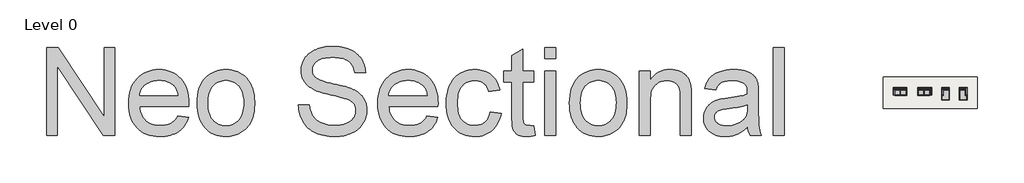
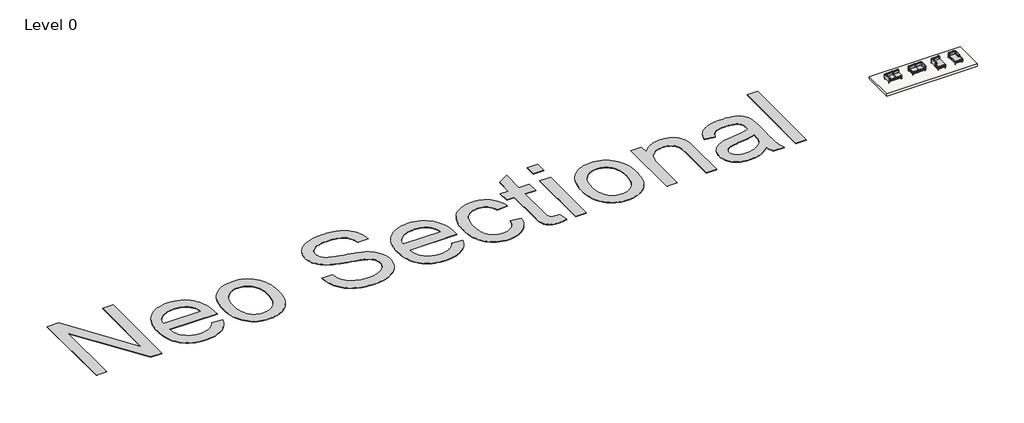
# One storey: 4 furniture elements, 1 proxy, 1 slab.
"""IFC4 building model written with IfcOpenShell, lengths in millimetres."""

from ifc_helpers import new_model, si_unit, frame, origin, origin_with_axes, place, context, project, spatial, polyline, outline, extrude, transform, mapped, element, save
from components import furniture_ecc5c0b1, furniture_0ab977c7, furniture_29ceb941, furniture_131ba593, furniture_083d2603, furniture_9e7daefd, furniture_818bd36a, furniture_f0cc6534

model = new_model("IFC4")

# Units and contexts
model_context = context("Model", 3, world=origin())
ifc_project = project(units=[si_unit("LENGTHUNIT", "METRE", prefix="MILLI")], contexts=[model_context])

# Site, building, storey
site = spatial("IfcSite", under=ifc_project)
building = spatial("IfcBuilding", under=site)
storey = spatial("IfcBuildingStorey", under=building, Name="Level 0", Elevation=0.0)

# Proxy
placement = place(None, origin())
element("IfcBuildingElementProxy", 1, Name="10 mm", ObjectType="10 mm", at=placement, inside=storey, context=model_context, shape_type="SweptSolid", body=[
    extrude(outline(polyline([(-200987.9352285, 70710.4267394), (-200987.9352285, 80756.0577544), (-199643.9396728, 80756.0577544), (-194395.4898749, 72797.5439254), (-194395.4898749, 80756.0577544), (-193139.785998, 80756.0577544), (-193139.785998, 70710.4267394), (-194483.7815538, 70710.4267394), (-199732.2313516, 78671.393115), (-199732.2313516, 70710.4267394), (-200987.9352285, 70710.4267394)])), origin_with_axes(), (0.0, 0.0, 1.0), 50.0),
    extrude(outline(polyline([(-185934.2039858, 72907.9085239), (-184703.0255753, 72750.9455393), (-184789.1521153, 72497.0686416), (-184891.7950241, 72257.8303816), (-185010.9543016, 72033.2307594), (-185146.6299478, 71823.2697748), (-185298.8219628, 71627.947428), (-185467.5303465, 71447.2637189), (-185652.755099, 71281.2186476), (-185854.4962202, 71129.8122139), (-186071.7573631, 70994.7305438), (-186303.5421806, 70877.6597631), (-186549.8506727, 70778.5998716), (-186810.6828394, 70697.5508696), (-187086.0386806, 70634.5127569), (-187375.9181965, 70589.4855335), (-187680.321387, 70562.4691995), (-187999.2482521, 70553.4637548), (-188399.434885, 70569.002937), (-188778.3916611, 70615.6204836), (-189136.1185803, 70693.3163945), (-189472.6156428, 70802.0906699), (-189787.8828484, 70941.9433096), (-190081.9201973, 71112.8743137), (-190354.7276893, 71314.8836822), (-190606.3053246, 71547.9714151), (-190832.2078623, 71809.1101501), (-191027.9900616, 72095.272525), (-191193.6519225, 72406.4585398), (-191329.1934451, 72742.6681944), (-191434.6146294, 73103.901489), (-191509.9154752, 73490.1584234), (-191555.0959828, 73901.4389977), (-191570.156152, 74337.7432119), (-191554.9426986, 74788.8968295), (-191509.3023386, 75214.0687812), (-191433.2350719, 75613.259067), (-191326.7408985, 75986.4676869), (-191189.8198184, 76333.6946409), (-191022.4718316, 76654.939929), (-190824.6969382, 76950.2035511), (-190596.4951381, 77219.4855074), (-190344.0361189, 77459.7584355), (-190073.4895682, 77667.9949732), (-189784.8554862, 77844.1951205), (-189478.1338727, 77988.3588773), (-189153.3247278, 78100.4862438), (-188810.4280515, 78180.5772198), (-188449.4438437, 78228.6318054), (-188070.3721045, 78244.6500006), (-187703.6972221, 78228.6701265), (-187354.1518451, 78180.730504), (-187021.7359736, 78100.8311331), (-186706.4496074, 77988.972014), (-186408.2927466, 77845.1531465), (-186127.2653912, 77669.3745307), (-185863.3675413, 77461.6361665), (-185616.5991967, 77221.938054), (-185393.2833293, 76953.2692344), (-185199.7429109, 76658.6187489), (-185035.9779415, 76337.9865975), (-184901.988421, 75991.3727802), (-184797.7743496, 75618.7772969), (-184723.3357271, 75220.2001478), (-184678.6725537, 74795.6413327), (-184663.7848292, 74345.1008518), (-184671.1424691, 74006.6494162), (-190314.4522751, 74006.6494162), (-190287.0718912, 73748.3272777), (-190241.718939, 73505.5634819), (-190178.3934184, 73278.3580289), (-190097.0953296, 73066.7109185), (-189997.8246725, 72870.6221509), (-189880.581447, 72690.091726), (-189745.3656533, 72525.1196437), (-189592.1772912, 72375.7059042), (-189425.0017491, 72242.9234966), (-189247.8244153, 72127.84541), (-189060.6452898, 72030.4716444), (-188863.4643724, 71950.8021998), (-188656.2816634, 71888.8370763), (-188439.0971626, 71844.5762737), (-188211.91087, 71818.0197922), (-187974.7227858, 71809.1676317), (-187797.7562177, 71813.2679831), (-187627.3808686, 71825.5690373), (-187463.5967387, 71846.0707943), (-187306.4038279, 71874.7732541), (-187155.8021361, 71911.6764168), (-187011.7916634, 71956.7802822), (-186874.3724098, 72010.0848505), (-186743.5443752, 72071.5901216), (-186619.3075598, 72142.0625163), (-186501.6619634, 72222.2684554), (-186390.6075861, 72312.207939), (-186286.1444279, 72411.8809671), (-186188.2724888, 72521.2875396), (-186096.9917687, 72640.4276566), (-186012.3022677, 72769.301318), (-185934.2039858, 72907.9085239)]), holes=[polyline([(-190314.4522751, 75262.3532931), (-185919.488706, 75262.3532931), (-185946.6583242, 75445.9110802), (-185984.0213394, 75617.6659867), (-186031.5777514, 75777.6180126), (-186089.3275605, 75925.7671577), (-186157.2707665, 76062.1134222), (-186235.4073694, 76186.6568059), (-186323.7373693, 76299.3973091), (-186422.2607661, 76400.3349315), (-186587.5777377, 76538.2906797), (-186764.69759, 76657.8523281), (-186953.6203229, 76759.0198768), (-187154.3459365, 76841.7933257), (-187366.8744308, 76906.1726748), (-187591.2058058, 76952.1579242), (-187827.3400614, 76979.7490739), (-188075.2771978, 76988.9461238), (-188300.6240803, 76981.6076444), (-188516.8122341, 76959.5922062), (-188723.841659, 76922.8998093), (-188921.712355, 76871.5304536), (-189110.4243222, 76805.4841392), (-189289.9775606, 76724.760866), (-189460.3720701, 76629.360634), (-189621.6078508, 76519.2834433), (-189769.5079092, 76396.9051983), (-189899.8952518, 76264.6018037), (-190012.7698785, 76122.3732594), (-190108.1317895, 75970.2195655), (-190185.9809846, 75808.1407218), (-190246.3174639, 75636.1367286), (-190289.1412274, 75454.2075857), (-190314.4522751, 75262.3532931)])]), origin_with_axes(), (0.0, 0.0, 1.0), 50.0),
    extrude(outline(polyline([(-183722.0069215, 74399.0568777), (-183705.0307003, 74893.2833456), (-183654.1020366, 75354.477076), (-183569.2209304, 75782.638069), (-183450.3873817, 76177.7663244), (-183297.6013906, 76539.8618424), (-183110.862957, 76868.9246228), (-182890.172081, 77164.9546658), (-182635.5287624, 77427.9519713), (-182402.4601901, 77619.365572), (-182156.9756004, 77785.2573592), (-181899.0749933, 77925.6273329), (-181628.758369, 78040.4754933), (-181346.0257272, 78129.8018403), (-181050.8770682, 78193.6063738), (-180743.3123918, 78231.8890939), (-180423.3316981, 78244.6500006), (-180068.6513016, 78229.1108184), (-179730.5639159, 78182.4932719), (-179409.0695411, 78104.7973609), (-179104.1681771, 77996.0230856), (-178815.8598239, 77856.1704458), (-178544.1444815, 77685.2394417), (-178289.0221499, 77483.2300732), (-178050.4928292, 77250.1423403), (-177834.6495648, 76989.655063), (-177647.5854024, 76705.4470612), (-177489.3003419, 76397.518335), (-177359.7943833, 76065.8688842), (-177259.0675266, 75710.498709), (-177187.1197718, 75331.4078092), (-177143.9511189, 74928.596185), (-177129.5615679, 74502.0638364), (-177135.9228608, 74156.5230082), (-177155.0067393, 73829.9127743), (-177186.8132034, 73522.2331348), (-177231.3422533, 73233.4840897), (-177288.5938888, 72963.6656388), (-177358.5681099, 72712.7777823), (-177441.2649168, 72480.8205202), (-177536.6843093, 72267.7938523), (-177644.2706323, 72069.9231563), (-177763.4682309, 71883.4338094), (-177894.2771049, 71708.3258118), (-178036.6972544, 71544.5991635), (-178190.7286793, 71392.2538643), (-178356.3713798, 71251.2899144), (-178533.6253557, 71121.7073137), (-178722.4906071, 71003.5060622), (-178919.4032771, 70898.0273964), (-179120.7995089, 70806.6125527), (-179326.6793026, 70729.2615311), (-179537.0426581, 70665.9743317), (-179751.8895753, 70616.7509543), (-179971.2200544, 70581.591399), (-180195.0340954, 70560.4956659), (-180423.3316981, 70553.4637548), (-180783.6069666, 70568.9454554), (-181126.2162351, 70615.3905573), (-181451.1595037, 70692.7990605), (-181758.4367723, 70801.1709649), (-182048.0480409, 70940.5062706), (-182319.9933095, 71110.8049775), (-182574.2725781, 71312.0670857), (-182810.8858468, 71544.2925951), (-183024.4298487, 71805.6420959), (-183209.501317, 72094.2761779), (-183366.1002517, 72410.1948413), (-183494.2266528, 72753.398086), (-183593.8805204, 73123.8859119), (-183665.0618543, 73521.6583192), (-183707.7706547, 73946.7153078), (-183722.0069215, 74399.0568777)]), holes=[polyline([(-182466.3030446, 74401.5094244), (-182457.2209579, 74086.7595527), (-182429.9746976, 73792.4347961), (-182384.5642638, 73518.5351544), (-182320.9896566, 73265.0606276), (-182239.2508757, 73032.0112157), (-182139.3479214, 72819.3869188), (-182021.2807936, 72627.1877369), (-181885.0494923, 72455.4136699), (-181735.0609371, 72303.9497547), (-181575.722048, 72172.6810282), (-181407.0328248, 72061.6074903), (-181228.9932675, 71970.7291412), (-181041.6033762, 71900.0459808), (-180844.8631509, 71849.5580091), (-180638.7725915, 71819.265226), (-180423.3316981, 71809.1676317), (-180209.0404359, 71819.3227076), (-180003.9462236, 71849.7879353), (-179808.0490612, 71900.5633148), (-179621.3489486, 71971.6488462), (-179443.8458859, 72063.0445294), (-179275.5398731, 72174.7503644), (-179116.4309102, 72306.7663512), (-178966.5189972, 72459.0924898), (-178830.2876959, 72632.2269538), (-178712.220568, 72826.6679167), (-178612.3176137, 73042.4153784), (-178530.5788329, 73279.4693391), (-178467.0042256, 73537.8297986), (-178421.5937918, 73817.496757), (-178394.3475316, 74118.4702143), (-178385.2654448, 74440.7501705), (-178394.4050131, 74745.153361), (-178421.8237181, 75030.510994), (-178467.5215597, 75296.8230696), (-178531.4985379, 75544.0895877), (-178613.7546528, 75772.3105484), (-178714.2899043, 75981.4859516), (-178833.1042924, 76171.6157973), (-178970.1978171, 76342.7000856), (-179120.8569905, 76494.1640008), (-179280.3683243, 76625.4327273), (-179448.7318187, 76736.5062651), (-179625.9474736, 76827.3846142), (-179812.0152889, 76898.0677746), (-180006.9352648, 76948.5557464), (-180210.7074012, 76978.8485294), (-180423.3316981, 76988.9461238), (-180638.7725915, 76978.8868505), (-180844.8631509, 76948.7090305), (-181041.6033762, 76898.412664), (-181228.9932675, 76827.9977509), (-181407.0328248, 76737.4642911), (-181575.722048, 76626.8122848), (-181735.0609371, 76496.0417318), (-181885.0494923, 76345.1526322), (-182021.2807936, 76173.9533808), (-182139.3479214, 75982.2523724), (-182239.2508757, 75770.0496069), (-182320.9896566, 75537.3450845), (-182384.5642638, 75284.138805), (-182429.9746976, 75010.4307685), (-182457.2209579, 74716.2209749), (-182466.3030446, 74401.5094244)])]), origin_with_axes(), (0.0, 0.0, 1.0), 50.0),
    extrude(outline(polyline([(-172106.7460605, 74163.6124008), (-170851.0421836, 74163.6124008), (-170825.9419016, 73976.5865594), (-170793.5606219, 73798.1063102), (-170753.8983442, 73628.1716531), (-170706.9550688, 73466.7825883), (-170652.7307956, 73313.9391156), (-170591.2255245, 73169.6412351), (-170522.4392556, 73033.8889468), (-170446.3719889, 72906.6822506), (-170361.1843144, 72786.6990707), (-170265.0368221, 72672.6173312), (-170157.9295121, 72564.437032), (-170039.8623842, 72462.1581731), (-169910.8354386, 72365.7807546), (-169770.8486753, 72275.3047764), (-169619.9020941, 72190.7302385), (-169457.9956952, 72112.057141), (-169288.0035566, 72041.0674123), (-169112.7997564, 71979.5429807), (-168932.3842946, 71927.4838463), (-168746.7571712, 71884.890009), (-168555.9183862, 71851.7614689), (-168359.8679396, 71828.098226), (-168158.6058314, 71813.9002803), (-167952.1320616, 71809.1676317), (-167769.072448, 71812.750649), (-167591.4544222, 71823.4997011), (-167419.2779842, 71841.4147878), (-167252.5431341, 71866.4959093), (-167091.2498718, 71898.7430654), (-166935.3981974, 71938.1562562), (-166784.9881109, 71984.7354818), (-166640.0196121, 72038.480742), (-166502.3129507, 72098.4914925), (-166373.688376, 72163.8671887), (-166254.1458881, 72234.6078307), (-166143.685487, 72310.7134184), (-166042.3071726, 72392.1839519), (-165950.0109449, 72479.0194312), (-165866.796804, 72571.2198563), (-165792.6647499, 72668.7852271), (-165727.4231773, 72769.6653679), (-165670.8804811, 72871.8101032), (-165623.0366612, 72975.2194327), (-165583.8917177, 73079.8933567), (-165553.4456504, 73185.831875), (-165531.6984596, 73293.0349876), (-165518.6501451, 73401.5026946), (-165514.3007069, 73511.234996), (-165517.5579954, 73621.6570761), (-165527.3298609, 73728.5152994), (-165543.6163034, 73831.8096659), (-165566.4173229, 73931.5401755), (-165595.7329194, 74027.7068283), (-165631.5630929, 74120.3096243), (-165673.9078433, 74209.3485634), (-165722.7671708, 74294.8236457), (-165781.7049321, 74376.9647975), (-165854.2849841, 74456.0019449), (-165940.5073267, 74531.935088), (-166040.37196, 74604.7642267), (-166153.8788839, 74674.4893611), (-166281.0280985, 74741.1104911), (-166421.8196038, 74804.6276169), (-166576.2533996, 74865.0407383), (-166694.9528246, 74906.3316601), (-166845.0371824, 74952.9492067), (-167026.5064728, 75004.893378), (-167239.3606959, 75062.164174), (-167759.2239404, 75192.6856402), (-168404.6269157, 75344.5136053), (-168745.205169, 75425.2751996), (-169058.7670883, 75505.0787678), (-169345.3126737, 75583.92431), (-169604.8419249, 75661.8118262), (-169837.3548422, 75738.7413163), (-170042.8514254, 75814.7127804), (-170221.3316747, 75889.7262185), (-170372.7955899, 75963.7816305), (-170546.1408196, 76061.002112), (-170708.1047001, 76163.8174654), (-170858.6872313, 76272.2276909), (-170997.8884133, 76386.2327883), (-171125.7082461, 76505.8327578), (-171242.1467297, 76631.0275993), (-171347.2038641, 76761.8173128), (-171440.8796492, 76898.2018983), (-171523.3656903, 77039.4915771), (-171594.8535926, 77184.9965704), (-171655.3433561, 77334.7168782), (-171704.8349807, 77488.6525005), (-171743.3284666, 77646.8034374), (-171770.8238136, 77809.1696888), (-171787.3210218, 77975.7512548), (-171792.8200912, 78146.5481353), (-171786.0181064, 78335.0684973), (-171765.612152, 78520.4848549), (-171731.602228, 78702.7972083), (-171683.9883343, 78882.0055573), (-171622.7704711, 79058.1099019), (-171547.9486382, 79231.1102423), (-171459.5228357, 79401.0065783), (-171357.4930636, 79567.79891), (-171242.3958165, 79728.0575041), (-171114.7675889, 79878.3526275), (-170974.6083808, 80018.6842803), (-170821.9181923, 80149.0524623), (-170656.6970233, 80269.4571737), (-170478.9448739, 80379.8984143), (-170288.661744, 80480.3761842), (-170085.8476336, 80570.8904835), (-169873.8173129, 80651.0772621), (-169655.8855518, 80720.5724703), (-169432.0523503, 80779.3761079), (-169202.3177085, 80827.4881751), (-168966.6816264, 80864.9086718), (-168725.144104, 80891.637598), (-168477.7051412, 80907.6749537), (-168224.364738, 80913.020739), (-167947.0736842, 80907.425867), (-167678.0599752, 80890.6412509), (-167417.3236111, 80862.6668909), (-167164.8645919, 80823.5027868), (-166920.6829176, 80773.1489387), (-166684.7785882, 80711.6053466), (-166457.1516037, 80638.8720105), (-166237.8019641, 80554.9489303), (-166028.7990056, 80460.1809955), (-165832.2120644, 80354.9130955), (-165648.0411406, 80239.1452301), (-165476.2862341, 80112.8773995), (-165316.9473449, 79976.1096036), (-165170.0244731, 79828.8418424), (-165035.5176186, 79671.0741159), (-164913.4267814, 79502.8064241), (-164804.2501352, 79326.4146717), (-164708.4858533, 79144.274763), (-164626.1339358, 78956.3866982), (-164557.1943828, 78762.7504772), (-164501.6671941, 78563.3661), (-164459.5523699, 78358.2335666), (-164430.8499101, 78147.3528771), (-164415.5598146, 77930.7240314), (-165671.2636915, 77930.7240314), (-165705.4460602, 78137.5810116), (-165755.2634137, 78331.4088378), (-165820.715752, 78512.20751), (-165901.8030752, 78679.9770283), (-165998.5253831, 78834.7173925), (-166110.8826757, 78976.4286027), (-166238.8749532, 79105.1106589), (-166382.5022155, 79220.7635612), (-166543.029057, 79323.0807411), (-166721.7200719, 79411.7556303), (-166918.5752604, 79486.7882289), (-167133.5946223, 79548.1785369), (-167366.7781578, 79595.9265542), (-167618.1258668, 79630.0322808), (-167887.6377493, 79650.4957168), (-168175.3138053, 79657.3168621), (-168473.2599004, 79650.5723589), (-168750.282707, 79630.3388491), (-169006.3822251, 79596.6163329), (-169241.5584547, 79549.4048102), (-169455.8113958, 79488.704281), (-169649.1410485, 79414.5147453), (-169821.5474127, 79326.8362031), (-169973.0304884, 79225.6686544), (-170105.2380805, 79114.9591665), (-170219.8179935, 78998.6548066), (-170316.7702277, 78876.7555746), (-170396.0947829, 78749.2614707), (-170457.7916592, 78616.1724947), (-170501.8608565, 78477.4886467), (-170528.3023749, 78333.2099268), (-170537.1162144, 78183.3363348), (-170530.8698847, 78053.8495367), (-170512.1308955, 77930.2641789), (-170480.899247, 77812.5802615), (-170437.174939, 77700.7977844), (-170380.9579716, 77594.9167477), (-170312.2483448, 77494.9371513), (-170231.0460586, 77400.8589952), (-170137.351113, 77312.6822795), (-170019.4755903, 77226.6132211), (-169862.0527532, 77140.0843101), (-169665.0826016, 77053.0955467), (-169428.5651356, 76965.6469307), (-169152.500355, 76877.7384623), (-168836.88826, 76789.3701414), (-168481.7288505, 76700.541968), (-168087.0221265, 76611.253942), (-167689.6329296, 76523.0772263), (-167326.4261015, 76437.5829835), (-166997.401642, 76354.7712135), (-166702.5595513, 76274.6419165), (-166441.8998293, 76197.1950923), (-166215.422476, 76122.430741), (-166023.1274915, 76050.3488625), (-165865.0148756, 75980.949457), (-165665.7646221, 75877.0611144), (-165480.0416961, 75766.5049106), (-165307.8460976, 75649.2808457), (-165149.1778267, 75525.3889196), (-165004.0368833, 75394.8291324), (-164872.4232674, 75257.601484), (-164754.336979, 75113.7059744), (-164649.7780182, 74963.1426037), (-164558.0949272, 74806.2945822), (-164478.6362484, 74643.5451203), (-164411.4019817, 74474.8942182), (-164356.3921271, 74300.3418757), (-164313.6066846, 74119.8880928), (-164283.0456543, 73933.5328697), (-164264.7090361, 73741.2762061), (-164258.59683, 73543.1181023), (-164265.6287411, 73345.2857273), (-164286.7244742, 73150.3274303), (-164321.8840295, 72958.2432115), (-164371.1074069, 72769.0330708), (-164434.3946064, 72582.6970081), (-164511.745628, 72399.2350235), (-164603.1604717, 72218.647117), (-164708.6391375, 72040.9332886), (-164827.3194019, 71869.5615925), (-164958.3390417, 71708.000083), (-165101.6980567, 71556.24876), (-165257.3964469, 71414.3076235), (-165425.4342124, 71282.1766736), (-165605.8113532, 71159.8559102), (-165798.5278692, 71047.3453333), (-166003.5837605, 70944.644943), (-166218.0857884, 70852.961852), (-166439.1407144, 70773.5031732), (-166666.7485384, 70706.2689064), (-166900.9092604, 70651.2590519), (-167141.6228805, 70608.4736094), (-167388.8893986, 70577.9125791), (-167642.7088147, 70559.5759609), (-167903.0811289, 70553.4637548), (-168231.0517597, 70560.0549739), (-168545.4184209, 70579.8286311), (-168846.1811125, 70612.7847265), (-169133.3398345, 70658.9232601), (-169406.8945868, 70718.2442318), (-169666.8453695, 70790.7476417), (-169913.1921827, 70876.4334897), (-170145.9350262, 70975.3017759), (-170365.8019999, 71087.4291424), (-170573.5212035, 71212.8922312), (-170769.0926371, 71351.6910423), (-170952.5163006, 71503.8255757), (-171123.7921941, 71669.2958314), (-171282.9203175, 71848.1018095), (-171429.9006709, 72040.2435099), (-171564.7332542, 72245.7209326), (-171685.8660654, 72461.3151102), (-171791.7471021, 72683.8070752), (-171882.3763645, 72913.1968276), (-171957.7538524, 73149.4843674), (-172017.879566, 73392.6696947), (-172062.7535052, 73642.7528093), (-172092.37567, 73899.7337113), (-172106.7460605, 74163.6124008)])), origin_with_axes(), (0.0, 0.0, 1.0), 50.0),
    extrude(outline(polyline([(-157366.9407871, 72907.9085239), (-156135.7623765, 72750.9455393), (-156221.8889165, 72497.0686416), (-156324.5318253, 72257.8303816), (-156443.6911028, 72033.2307594), (-156579.366749, 71823.2697748), (-156731.558764, 71627.947428), (-156900.2671478, 71447.2637189), (-157085.4919002, 71281.2186476), (-157287.2330214, 71129.8122139), (-157504.4941643, 70994.7305438), (-157736.2789818, 70877.6597631), (-157982.5874739, 70778.5998716), (-158243.4196406, 70697.5508696), (-158518.7754818, 70634.5127569), (-158808.6549977, 70589.4855335), (-159113.0581882, 70562.4691995), (-159431.9850533, 70553.4637548), (-159832.1716862, 70569.002937), (-160211.1284623, 70615.6204836), (-160568.8553815, 70693.3163945), (-160905.352444, 70802.0906699), (-161220.6196497, 70941.9433096), (-161514.6569985, 71112.8743137), (-161787.4644906, 71314.8836822), (-162039.0421258, 71547.9714151), (-162264.9446635, 71809.1101501), (-162460.7268628, 72095.272525), (-162626.3887237, 72406.4585398), (-162761.9302463, 72742.6681944), (-162867.3514306, 73103.901489), (-162942.6522764, 73490.1584234), (-162987.832784, 73901.4389977), (-163002.8929532, 74337.7432119), (-162987.6794998, 74788.8968295), (-162942.0391398, 75214.0687812), (-162865.9718731, 75613.259067), (-162759.4776997, 75986.4676869), (-162622.5566196, 76333.6946409), (-162455.2086328, 76654.939929), (-162257.4337394, 76950.2035511), (-162029.2319393, 77219.4855074), (-161776.7729201, 77459.7584355), (-161506.2263694, 77667.9949732), (-161217.5922874, 77844.1951205), (-160910.8706739, 77988.3588773), (-160586.061529, 78100.4862438), (-160243.1648527, 78180.5772198), (-159882.1806449, 78228.6318054), (-159503.1089057, 78244.6500006), (-159136.4340233, 78228.6701265), (-158786.8886464, 78180.730504), (-158454.4727748, 78100.8311331), (-158139.1864086, 77988.972014), (-157841.0295478, 77845.1531465), (-157560.0021924, 77669.3745307), (-157296.1043425, 77461.6361665), (-157049.3359979, 77221.938054), (-156826.0201305, 76953.2692344), (-156632.4797121, 76658.6187489), (-156468.7147427, 76337.9865975), (-156334.7252222, 75991.3727802), (-156230.5111508, 75618.7772969), (-156156.0725283, 75220.2001478), (-156111.4093549, 74795.6413327), (-156096.5216304, 74345.1008518), (-156103.8792703, 74006.6494162), (-161747.1890763, 74006.6494162), (-161719.8086924, 73748.3272777), (-161674.4557402, 73505.5634819), (-161611.1302196, 73278.3580289), (-161529.8321308, 73066.7109185), (-161430.5614737, 72870.6221509), (-161313.3182482, 72690.091726), (-161178.1024545, 72525.1196437), (-161024.9140924, 72375.7059042), (-160857.7385503, 72242.9234966), (-160680.5612165, 72127.84541), (-160493.382091, 72030.4716444), (-160296.2011736, 71950.8021998), (-160089.0184646, 71888.8370763), (-159871.8339638, 71844.5762737), (-159644.6476713, 71818.0197922), (-159407.459587, 71809.1676317), (-159230.4930189, 71813.2679831), (-159060.1176699, 71825.5690373), (-158896.3335399, 71846.0707943), (-158739.1406291, 71874.7732541), (-158588.5389373, 71911.6764168), (-158444.5284646, 71956.7802822), (-158307.109211, 72010.0848505), (-158176.2811764, 72071.5901216), (-158052.044361, 72142.0625163), (-157934.3987646, 72222.2684554), (-157823.3443873, 72312.207939), (-157718.8812291, 72411.8809671), (-157621.00929, 72521.2875396), (-157529.7285699, 72640.4276566), (-157445.0390689, 72769.301318), (-157366.9407871, 72907.9085239)]), holes=[polyline([(-161747.1890763, 75262.3532931), (-157352.2255072, 75262.3532931), (-157379.3951254, 75445.9110802), (-157416.7581406, 75617.6659867), (-157464.3145526, 75777.6180126), (-157522.0643617, 75925.7671577), (-157590.0075677, 76062.1134222), (-157668.1441706, 76186.6568059), (-157756.4741705, 76299.3973091), (-157854.9975673, 76400.3349315), (-158020.3145389, 76538.2906797), (-158197.4343912, 76657.8523281), (-158386.3571241, 76759.0198768), (-158587.0827377, 76841.7933257), (-158799.611232, 76906.1726748), (-159023.942607, 76952.1579242), (-159260.0768626, 76979.7490739), (-159508.013999, 76988.9461238), (-159733.3608815, 76981.6076444), (-159949.5490353, 76959.5922062), (-160156.5784602, 76922.8998093), (-160354.4491562, 76871.5304536), (-160543.1611234, 76805.4841392), (-160722.7143618, 76724.760866), (-160893.1088713, 76629.360634), (-161054.344652, 76519.2834433), (-161202.2447104, 76396.9051983), (-161332.632053, 76264.6018037), (-161445.5066797, 76122.3732594), (-161540.8685907, 75970.2195655), (-161618.7177858, 75808.1407218), (-161679.0542651, 75636.1367286), (-161721.8780286, 75454.2075857), (-161747.1890763, 75262.3532931)])]), origin_with_axes(), (0.0, 0.0, 1.0), 50.0),
    extrude(outline(polyline([(-150131.9282152, 73378.7974778), (-148876.2243384, 73221.8344932), (-148934.8938524, 72917.0480923), (-149012.8005291, 72629.3145547), (-149109.9443684, 72358.6338804), (-149226.3253704, 72105.0060695), (-149361.9435351, 71868.4311218), (-149516.7988625, 71648.9090375), (-149690.8913525, 71446.4398165), (-149884.2210052, 71261.0234589), (-150092.9173953, 71095.1891532), (-150313.1100979, 70951.4660883), (-150544.7991127, 70829.8542642), (-150787.98444, 70730.3536808), (-151042.6660795, 70652.9643382), (-151308.8440315, 70597.6862363), (-151586.5182958, 70564.5193752), (-151875.6888724, 70553.4637548), (-152236.9221669, 70568.8879739), (-152579.9529669, 70615.1606311), (-152904.7812723, 70692.2817264), (-153211.4070832, 70800.2512599), (-153499.8303995, 70939.0692315), (-153770.0512213, 71108.7356413), (-154022.0695485, 71309.2504892), (-154255.8853812, 71540.6137752), (-154466.555305, 71800.7944842), (-154649.1359056, 72087.7616009), (-154803.6271831, 72401.5151255), (-154930.0291373, 72742.0550578), (-155028.3417684, 73109.3813979), (-155098.5650764, 73503.4941457), (-155140.6990611, 73924.3933013), (-155154.7437227, 74372.0788647), (-155148.7464798, 74665.4072743), (-155130.754751, 74949.4236709), (-155100.7685362, 75224.1280545), (-155058.7878356, 75489.5204251), (-155004.8126492, 75745.6007827), (-154938.8429768, 75992.3691272), (-154860.8788186, 76229.8254588), (-154770.9201744, 76457.9697774), (-154668.6796366, 76674.4644994), (-154553.8697973, 76876.9720415), (-154426.4906564, 77065.4924035), (-154286.5422141, 77240.0255855), (-154134.0244703, 77400.5715874), (-153968.9374249, 77547.1304094), (-153791.2810781, 77679.7020513), (-153601.0554298, 77798.2865132), (-153402.4183129, 77902.9029555), (-153199.5275604, 77993.5705389), (-152992.3831724, 78070.2892633), (-152780.9851488, 78133.0591288), (-152565.3334897, 78181.8801352), (-152345.428195, 78216.7522827), (-152121.2692647, 78237.6755711), (-151892.8566988, 78244.6500006), (-151607.65235, 78235.0697403), (-151335.7454024, 78206.3289595), (-151077.1358561, 78158.427658), (-150831.8237111, 78091.365836), (-150599.8089673, 78005.1434934), (-150381.0916249, 77899.7606302), (-150175.6716837, 77775.2172464), (-149983.5491439, 77631.513342), (-149806.4101311, 77470.1817587), (-149645.9407712, 77292.7553381), (-149502.1410642, 77099.2340802), (-149375.0110102, 76889.6179851), (-149264.550609, 76663.9070526), (-149170.7598608, 76422.1012829), (-149093.6387654, 76164.2006758), (-149033.187323, 75890.2052315), (-150288.8911998, 75733.2422469), (-150333.9375837, 75884.7444831), (-150386.9164231, 76026.551496), (-150447.8277181, 76158.6632854), (-150516.6714685, 76281.0798514), (-150593.4476745, 76393.801194), (-150678.156336, 76496.8273131), (-150770.797453, 76590.1582089), (-150871.3710255, 76673.7938812), (-150978.6507803, 76747.6576881), (-151091.4104439, 76811.6729873), (-151209.6500164, 76865.839779), (-151333.3694978, 76910.1580631), (-151462.5688881, 76944.6278397), (-151597.2481873, 76969.2491086), (-151737.4073953, 76984.02187), (-151883.0465123, 76988.9461238), (-152101.6105706, 76979.2509003), (-152309.7129846, 76950.1652301), (-152507.3537544, 76901.689113), (-152694.53288, 76833.8225491), (-152871.2503613, 76746.5655384), (-153037.5061984, 76639.9180808), (-153193.3003912, 76513.8801764), (-153338.6329399, 76368.4518252), (-153469.9783085, 76202.0618645), (-153583.8109612, 76013.1391316), (-153680.1308982, 75801.6836264), (-153758.9381194, 75567.6953491), (-153820.2326247, 75311.1742995), (-153864.0144142, 75032.1204777), (-153890.2834879, 74730.5338838), (-153899.0398459, 74406.4145176), (-153890.4750932, 74077.1792925), (-153864.780835, 73771.2815814), (-153821.9570715, 73488.7213843), (-153762.0038026, 73229.4987014), (-153684.9210283, 72993.6135325), (-153590.7087486, 72781.0658777), (-153479.3669635, 72591.8557369), (-153350.895673, 72425.9831103), (-153208.5904867, 72281.4169825), (-153055.747014, 72156.1263384), (-152892.365255, 72050.111178), (-152718.4452097, 71963.3715013), (-152533.986878, 71895.9073083), (-152338.9902601, 71847.7185991), (-152133.4553558, 71818.8053735), (-151917.3821652, 71809.1676317), (-151743.8453303, 71815.1840351), (-151577.6278142, 71833.2332455), (-151418.729617, 71863.3152628), (-151267.1507387, 71905.4300871), (-151122.8911792, 71959.5777182), (-150985.9509386, 72025.7581563), (-150856.3300169, 72103.9714013), (-150734.028414, 72194.2174533), (-150620.8088979, 72296.9561647), (-150518.4342364, 72412.6473879), (-150426.9044296, 72541.2911231), (-150346.2194774, 72682.8873702), (-150276.3793799, 72837.4361292), (-150217.384137, 73004.9374002), (-150169.2337488, 73185.391183), (-150131.9282152, 73378.7974778)])), origin_with_axes(), (0.0, 0.0, 1.0), 50.0),
    extrude(outline(polyline([(-145109.1127078, 71757.6641523), (-144952.1497232, 70673.6385399), (-145207.6744256, 70621.0620714), (-145330.2634363, 70600.4070302), (-145449.4035533, 70583.5074511), (-145565.0947766, 70570.363334), (-145677.3371061, 70560.9746789), (-145786.130542, 70555.3414858), (-145891.4750842, 70553.4637548), (-146056.5238085, 70556.7210433), (-146211.9922725, 70566.4929088), (-146357.8804762, 70582.7793513), (-146494.1884196, 70605.5803708), (-146620.9161027, 70634.8959673), (-146738.0635256, 70670.7261408), (-146845.6306881, 70713.0708913), (-146943.6175904, 70761.9302187), (-147033.3654688, 70816.0778499), (-147116.2155598, 70874.2875114), (-147192.1678634, 70936.5592033), (-147261.2223795, 71002.8929256), (-147323.3791083, 71073.2886782), (-147378.6380497, 71147.7464612), (-147426.9992036, 71226.2662745), (-147468.4625702, 71308.8481182), (-147504.1011384, 71405.1488947), (-147534.9878976, 71524.8255062), (-147561.1228477, 71667.8779529), (-147582.5059887, 71834.3062347), (-147599.1373205, 72024.1103516), (-147611.0168433, 72237.2903036), (-147618.1445569, 72473.8460907), (-147620.5204615, 72733.7777129), (-147620.5204615, 76831.9831392), (-148562.2983692, 76831.9831392), (-148562.2983692, 78087.687016), (-147620.5204615, 78087.687016), (-147620.5204615, 79880.4986059), (-146364.8165846, 80618.7151428), (-146364.8165846, 78087.687016), (-145109.1127078, 78087.687016), (-145109.1127078, 76831.9831392), (-146364.8165846, 76831.9831392), (-146364.8165846, 72770.5659124), (-146360.6779122, 72541.5593704), (-146348.2618948, 72357.3118045), (-146338.9498818, 72281.9726376), (-146327.5685326, 72217.8232146), (-146314.1178472, 72164.8635358), (-146298.5978255, 72123.0936009), (-146260.3534264, 72054.4989372), (-146237.3799622, 72023.0182019), (-146211.8389883, 71993.4151976), (-146153.0545112, 71939.842382), (-146083.999995, 71893.7804906), (-146044.8550514, 71873.9493518), (-146001.6097565, 71856.7623648), (-145954.2641101, 71842.2195297), (-145902.8181124, 71830.3208464), (-145847.2717632, 71821.066315), (-145787.6250626, 71814.4559354), (-145656.0306073, 71809.1676317), (-145544.5930195, 71805.9486642), (-145416.2941737, 71796.2917618), (-145271.1340698, 71780.1969246), (-145109.1127078, 71757.6641523)])), origin_with_axes(), (0.0, 0.0, 1.0), 50.0),
    extrude(outline(polyline([(-143853.4088309, 79500.3538775), (-143853.4088309, 80756.0577544), (-142597.704954, 80756.0577544), (-142597.704954, 79500.3538775), (-143853.4088309, 79500.3538775)])), origin_with_axes(), (0.0, 0.0, 1.0), 50.0),
    extrude(outline(polyline([(-143853.4088309, 70710.4267394), (-143853.4088309, 78087.687016), (-142597.704954, 78087.687016), (-142597.704954, 70710.4267394), (-143853.4088309, 70710.4267394)])), origin_with_axes(), (0.0, 0.0, 1.0), 50.0),
    extrude(outline(polyline([(-141028.0751079, 74399.0568777), (-141011.0988867, 74893.2833456), (-140960.170223, 75354.477076), (-140875.2891168, 75782.638069), (-140756.4555682, 76177.7663244), (-140603.669577, 76539.8618424), (-140416.9311434, 76868.9246228), (-140196.2402674, 77164.9546658), (-139941.5969488, 77427.9519713), (-139708.5283765, 77619.365572), (-139463.0437868, 77785.2573592), (-139205.1431797, 77925.6273329), (-138934.8265554, 78040.4754933), (-138652.0939137, 78129.8018403), (-138356.9452546, 78193.6063738), (-138049.3805782, 78231.8890939), (-137729.3998845, 78244.6500006), (-137374.719488, 78229.1108184), (-137036.6321023, 78182.4932719), (-136715.1377275, 78104.7973609), (-136410.2363635, 77996.0230856), (-136121.9280103, 77856.1704458), (-135850.2126679, 77685.2394417), (-135595.0903363, 77483.2300732), (-135356.5610156, 77250.1423403), (-135140.7177513, 76989.655063), (-134953.6535888, 76705.4470612), (-134795.3685283, 76397.518335), (-134665.8625697, 76065.8688842), (-134565.135713, 75710.498709), (-134493.1879582, 75331.4078092), (-134450.0193053, 74928.596185), (-134435.6297544, 74502.0638364), (-134441.9910472, 74156.5230082), (-134461.0749257, 73829.9127743), (-134492.8813899, 73522.2331348), (-134537.4104397, 73233.4840897), (-134594.6620752, 72963.6656388), (-134664.6362964, 72712.7777823), (-134747.3331032, 72480.8205202), (-134842.7524957, 72267.7938523), (-134950.3388188, 72069.9231563), (-135069.5364173, 71883.4338094), (-135200.3452913, 71708.3258118), (-135342.7654408, 71544.5991635), (-135496.7968658, 71392.2538643), (-135662.4395662, 71251.2899144), (-135839.6935421, 71121.7073137), (-136028.5587935, 71003.5060622), (-136225.4714635, 70898.0273964), (-136426.8676953, 70806.6125527), (-136632.747489, 70729.2615311), (-136843.1108445, 70665.9743317), (-137057.9577618, 70616.7509543), (-137277.2882409, 70581.591399), (-137501.1022818, 70560.4956659), (-137729.3998845, 70553.4637548), (-138089.675153, 70568.9454554), (-138432.2844215, 70615.3905573), (-138757.2276901, 70692.7990605), (-139064.5049587, 70801.1709649), (-139354.1162273, 70940.5062706), (-139626.0614959, 71110.8049775), (-139880.3407645, 71312.0670857), (-140116.9540332, 71544.2925951), (-140330.4980351, 71805.6420959), (-140515.5695034, 72094.2761779), (-140672.1684381, 72410.1948413), (-140800.2948393, 72753.398086), (-140899.9487068, 73123.8859119), (-140971.1300408, 73521.6583192), (-141013.8388411, 73946.7153078), (-141028.0751079, 74399.0568777)]), holes=[polyline([(-139772.3712311, 74401.5094244), (-139763.2891443, 74086.7595527), (-139736.042884, 73792.4347961), (-139690.6324503, 73518.5351544), (-139627.057843, 73265.0606276), (-139545.3190622, 73032.0112157), (-139445.4161078, 72819.3869188), (-139327.34898, 72627.1877369), (-139191.1176787, 72455.4136699), (-139041.1291236, 72303.9497547), (-138881.7902344, 72172.6810282), (-138713.1010112, 72061.6074903), (-138535.061454, 71970.7291412), (-138347.6715627, 71900.0459808), (-138150.9313373, 71849.5580091), (-137944.8407779, 71819.265226), (-137729.3998845, 71809.1676317), (-137515.1086223, 71819.3227076), (-137310.01441, 71849.7879353), (-137114.1172476, 71900.5633148), (-136927.417135, 71971.6488462), (-136749.9140724, 72063.0445294), (-136581.6080596, 72174.7503644), (-136422.4990966, 72306.7663512), (-136272.5871836, 72459.0924898), (-136136.3558823, 72632.2269538), (-136018.2887544, 72826.6679167), (-135918.3858001, 73042.4153784), (-135836.6470193, 73279.4693391), (-135773.072412, 73537.8297986), (-135727.6619783, 73817.496757), (-135700.415718, 74118.4702143), (-135691.3336312, 74440.7501705), (-135700.4731996, 74745.153361), (-135727.8919045, 75030.510994), (-135773.5897461, 75296.8230696), (-135837.5667243, 75544.0895877), (-135919.8228392, 75772.3105484), (-136020.3580907, 75981.4859516), (-136139.1724788, 76171.6157973), (-136276.2660036, 76342.7000856), (-136426.9251769, 76494.1640008), (-136586.4365107, 76625.4327273), (-136754.8000051, 76736.5062651), (-136932.01566, 76827.3846142), (-137118.0834753, 76898.0677746), (-137313.0034512, 76948.5557464), (-137516.7755876, 76978.8485294), (-137729.3998845, 76988.9461238), (-137944.8407779, 76978.8868505), (-138150.9313373, 76948.7090305), (-138347.6715627, 76898.412664), (-138535.061454, 76827.9977509), (-138713.1010112, 76737.4642911), (-138881.7902344, 76626.8122848), (-139041.1291236, 76496.0417318), (-139191.1176787, 76345.1526322), (-139327.34898, 76173.9533808), (-139445.4161078, 75982.2523724), (-139545.3190622, 75770.0496069), (-139627.057843, 75537.3450845), (-139690.6324503, 75284.138805), (-139736.042884, 75010.4307685), (-139763.2891443, 74716.2209749), (-139772.3712311, 74401.5094244)])]), origin_with_axes(), (0.0, 0.0, 1.0), 50.0),
    extrude(outline(polyline([(-133022.9628929, 70710.4267394), (-133022.9628929, 78087.687016), (-131767.259016, 78087.687016), (-131767.259016, 77057.6174295), (-131560.0954675, 77335.8281884), (-131331.0122834, 77576.9441794), (-131080.0094638, 77780.9654025), (-130807.0870086, 77947.8918579), (-130512.2449179, 78077.7235453), (-130195.4831916, 78170.4604649), (-129856.8018298, 78226.1026167), (-129496.2008325, 78244.6500006), (-129336.5745355, 78240.9136991), (-129180.205527, 78229.7047946), (-129027.093807, 78211.023287), (-128877.2393756, 78184.8691764), (-128730.6422326, 78151.2424628), (-128587.3023781, 78110.1431461), (-128447.2198121, 78061.5712265), (-128310.3945347, 78005.5267038), (-128179.451537, 77943.408296), (-128057.0158105, 77876.6147213), (-127943.0873551, 77805.1459795), (-127837.6661709, 77729.0020707), (-127740.7522578, 77648.1829949), (-127652.3456158, 77562.6887521), (-127572.446245, 77472.5193422), (-127501.0541453, 77377.6747653), (-127436.4257094, 77278.212503), (-127376.8173298, 77174.1900367), (-127322.2290067, 77065.6073666), (-127272.6607399, 76952.4644926), (-127228.1125296, 76834.7614146), (-127188.5843756, 76712.4981328), (-127154.0762781, 76585.6746471), (-127124.5882369, 76454.2909574), (-127109.0682152, 76359.6763068), (-127095.6175298, 76248.7368926), (-127084.2361805, 76121.4727149), (-127074.9241675, 75977.8837737), (-127062.5081502, 75641.7316006), (-127058.3694778, 75240.2803734), (-127058.3694778, 70710.4267394), (-128314.0733546, 70710.4267394), (-128314.0733546, 75071.0546556), (-128316.3342961, 75250.9719438), (-128323.1171203, 75419.1629935), (-128334.4218275, 75575.6278046), (-128350.2484175, 75720.3663771), (-128370.5968903, 75853.3787109), (-128395.4672461, 75974.6648062), (-128424.8594846, 76084.2246629), (-128458.7736061, 76182.058281), (-128498.4167231, 76271.7103568), (-128544.9959487, 76356.7255866), (-128598.5112827, 76437.1039705), (-128658.9627251, 76512.8455083), (-128726.350276, 76583.9502002), (-128800.6739353, 76650.4180461), (-128881.9337031, 76712.249046), (-128970.1295794, 76769.4432), (-129063.8053645, 76820.8891977), (-129161.5048589, 76865.4757291), (-129263.2280627, 76903.2027942), (-129368.9749758, 76934.0703928), (-129478.7455982, 76958.0785251), (-129592.5399299, 76975.227191), (-129710.357971, 76985.5163906), (-129832.1997214, 76988.9461238), (-130026.2383133, 76981.2435945), (-130213.494081, 76958.1360067), (-130393.9670243, 76919.6233603), (-130567.6571434, 76865.7056554), (-130734.5644382, 76796.3828919), (-130894.6889087, 76711.6550699), (-131048.0305549, 76611.5221893), (-131194.5893769, 76495.9842502), (-131328.8088235, 76358.909886), (-131445.132344, 76194.16773), (-131543.5599382, 76001.7577823), (-131624.0916062, 75781.6800429), (-131686.727348, 75533.9345118), (-131731.4671636, 75258.5211889), (-131758.3110529, 74955.4400744), (-131767.259016, 74624.6911681), (-131767.259016, 70710.4267394), (-133022.9628929, 70710.4267394)])), origin_with_axes(), (0.0, 0.0, 1.0), 50.0),
    extrude(outline(polyline([(-120622.8871088, 71652.2046471), (-120771.2086986, 71506.92958), (-120920.6415986, 71372.7676149), (-121071.1858089, 71249.7187517), (-121222.8413293, 71137.7829905), (-121375.6081599, 71036.9603312), (-121529.4863007, 70947.2507738), (-121684.4757516, 70868.6543184), (-121840.5765128, 70801.1709649), (-121998.6699682, 70743.1145875), (-122159.6375016, 70692.7990605), (-122323.4791131, 70650.2243837), (-122490.1948026, 70615.3905573), (-122659.7845703, 70588.2975812), (-122832.2484161, 70568.9454554), (-123007.5863399, 70557.33418), (-123185.7983419, 70553.4637548), (-123473.9534109, 70562.7757678), (-123744.9023324, 70590.7118068), (-123998.6451065, 70637.2718718), (-124235.1817331, 70702.4559628), (-124454.5122122, 70786.2640799), (-124656.6365438, 70888.6962229), (-124841.554728, 71009.7523919), (-125009.2667646, 71149.432587), (-125158.4314173, 71303.5981356), (-125287.7074497, 71468.1103653), (-125397.0948617, 71642.9692761), (-125486.5936534, 71828.1748681), (-125556.2038246, 72023.7271412), (-125605.9253755, 72229.6260953), (-125635.7583061, 72445.8717306), (-125645.7026163, 72672.464047), (-125641.9471542, 72807.0858646), (-125630.6807681, 72938.718641), (-125611.903458, 73067.3623762), (-125585.6152237, 73193.0170702), (-125551.8160654, 73315.682723), (-125510.505983, 73435.3593345), (-125461.6849766, 73552.0469049), (-125405.3530461, 73665.745434), (-125342.9089095, 73775.1903276), (-125275.7512849, 73879.1169912), (-125203.8801722, 73977.5254249), (-125127.2955714, 74070.4156287), (-125045.9974826, 74157.7876025), (-124959.9859057, 74239.6413465), (-124869.2608407, 74315.9768605), (-124773.8222877, 74386.7941445), (-124674.5133095, 74452.7829774), (-124572.1769691, 74514.6331379), (-124466.8132664, 74572.3446259), (-124358.4222015, 74625.9174414), (-124247.0037743, 74675.3515845), (-124132.5579849, 74720.6470552), (-124015.0848332, 74761.8038534), (-123894.5843192, 74798.8219791), (-123691.4828011, 74847.4130593), (-123442.7026018, 74895.0844345), (-123148.2437215, 74941.8361048), (-122808.1061601, 74987.66807), (-122450.5708461, 75034.1131719), (-122117.4077142, 75082.7042521), (-121808.6167645, 75133.4413106), (-121524.197997, 75186.3243474), (-121264.1514116, 75241.3533625), (-121028.4770085, 75298.5283559), (-120817.1747875, 75357.8493276), (-120630.2447487, 75419.3162777), (-120622.8871088, 75698.906594), (-120628.2903756, 75857.172494), (-120644.500176, 76003.328945), (-120671.51651, 76137.375947), (-120709.3393777, 76259.3135), (-120757.9687789, 76369.141604), (-120817.4047137, 76466.8602589), (-120887.6471822, 76552.4694649), (-120968.6961843, 76625.9692219), (-121092.3198631, 76711.0419332), (-121230.1989692, 76784.7716164), (-121382.3335026, 76847.1582715), (-121548.7234633, 76898.2018983), (-121729.3688514, 76937.9024969), (-121924.2696667, 76966.2600674), (-122133.4259094, 76983.2746097), (-122356.8375794, 76988.9461238), (-122564.997475, 76985.1715012), (-122759.0552275, 76973.8476335), (-122939.0108368, 76954.9745208), (-123104.8643029, 76928.5521629), (-123256.6156259, 76894.5805599), (-123394.2648058, 76853.0597118), (-123517.8118425, 76803.9896186), (-123627.2567361, 76747.3702803), (-123726.3166275, 76681.1323606), (-123818.7086577, 76603.2065234), (-123904.4328268, 76513.5927686), (-123983.4891347, 76412.2910963), (-124055.8775815, 76299.3015064), (-124121.5981671, 76174.623999), (-124180.6508915, 76038.258574), (-124233.0357548, 75890.2052315), (-125488.7396317, 76047.1682161), (-125444.3063844, 76232.6420553), (-125393.166955, 76408.9188447), (-125335.3213434, 76575.9985842), (-125270.7695495, 76733.8812738), (-125199.5115735, 76882.5669135), (-125121.5474152, 77022.0555033), (-125036.8770748, 77152.3470433), (-124945.5005521, 77273.4415334), (-124845.5209557, 77386.6035679), (-124735.041394, 77493.0977413), (-124614.0618671, 77592.9240536), (-124482.5823749, 77686.0825046), (-124340.6029173, 77772.5730945), (-124188.1234945, 77852.3958233), (-124025.1441065, 77925.5506909), (-123851.6647531, 77992.0376973), (-123669.3907208, 78051.2437059), (-123480.0272959, 78102.55558), (-123283.5744784, 78145.9733196), (-123080.0322682, 78181.4969248), (-122869.4006655, 78209.1263955), (-122651.6796701, 78228.8617317), (-122426.8692821, 78240.7029334), (-122194.9695015, 78244.6500006), (-121966.2503673, 78241.1627859), (-121748.529372, 78230.7011416), (-121541.8065154, 78213.2650679), (-121346.0817976, 78188.8545647), (-121161.3552187, 78157.469632), (-120987.6267786, 78119.1102698), (-120824.8964773, 78073.7764781), (-120673.1643148, 78021.4682569), (-120531.7788334, 77963.8908925), (-120400.0885755, 77902.7496714), (-120278.0935409, 77838.0445934), (-120165.7937298, 77769.7756585), (-120063.1891421, 77697.9428669), (-119970.2797778, 77622.5462184), (-119887.0656369, 77543.5857131), (-119813.5467194, 77461.0613509), (-119747.4429234, 77373.9767849), (-119686.4741469, 77281.3356678), (-119630.6403899, 77183.1379999), (-119579.9416525, 77079.3837809), (-119534.3779345, 76970.073011), (-119493.9492361, 76855.2056901), (-119458.6555572, 76734.7818182), (-119428.4968978, 76608.8013954), (-119414.1265073, 76521.8892741), (-119401.672169, 76420.5684412), (-119382.5116484, 76174.7006411), (-119371.015336, 75871.1979951), (-119367.1832319, 75510.0605032), (-119367.1832319, 73947.788297), (-119363.1978436, 73199.8382155), (-119351.2416788, 72586.9314831), (-119342.2745552, 72331.1193728), (-119331.3147374, 72109.0680998), (-119318.3622255, 71920.7776641), (-119303.4170194, 71766.2480656), (-119285.5594142, 71629.307825), (-119263.8697049, 71493.7854629), (-119238.3478915, 71359.6809793), (-119208.993974, 71226.9943743), (-119175.8079523, 71095.7256478), (-119138.7898266, 70965.8747998), (-119097.9395967, 70837.4418303), (-119053.2572627, 70710.4267394), (-120308.9611396, 70710.4267394), (-120367.5156905, 70813.1271297), (-120420.5520114, 70920.1194767), (-120468.0701025, 71031.4037802), (-120510.0699636, 71146.9800404), (-120546.5515948, 71266.8482571), (-120577.5149961, 71391.0084305), (-120602.9601674, 71519.4605605), (-120622.8871088, 71652.2046471)]), holes=[polyline([(-120622.8871088, 74163.6124008), (-120802.0762973, 74108.2384963), (-121002.4187005, 74054.9339281), (-121223.9143184, 74003.698696), (-121466.5631511, 73954.5328002), (-121730.3651984, 73907.4362406), (-122015.3204605, 73862.4090173), (-122321.4289374, 73819.4511301), (-122648.6906289, 73778.5625792), (-123002.2405547, 73731.810909), (-123300.1483287, 73682.3001238), (-123428.2364088, 73656.5100631), (-123542.4139509, 73630.0302236), (-123642.6809551, 73602.8606054), (-123729.0374214, 73575.0012085), (-123806.1585167, 73545.1491175), (-123878.7194082, 73512.0014168), (-123946.7200957, 73475.5581067), (-124010.1605794, 73435.819187), (-124069.0408591, 73392.7846578), (-124123.360935, 73346.454519), (-124173.1208069, 73296.8287707), (-124218.320475, 73243.9074129), (-124258.5575682, 73188.6101505), (-124293.4297157, 73131.8566885), (-124322.9369174, 73073.647027), (-124347.0791733, 73013.9811659), (-124365.8564835, 72952.8591052), (-124379.2688479, 72890.280845), (-124387.3162665, 72826.2463852), (-124389.9987394, 72760.7557259), (-124384.1547806, 72661.0826978), (-124366.6229043, 72565.6249843), (-124337.4031104, 72474.3825852), (-124296.495399, 72387.3555008), (-124243.89977, 72304.5437308), (-124179.6162234, 72225.9472754), (-124103.6447593, 72151.5661345), (-124015.9853776, 72081.4003081), (-123917.0212888, 72017.5957746), (-123807.1357033, 71962.2985122), (-123686.328621, 71915.5085209), (-123554.600042, 71877.2258008), (-123411.9499663, 71847.4503518), (-123258.3783938, 71826.1821739), (-123093.8853246, 71813.4212672), (-122918.4707587, 71809.1676317), (-122742.5005377, 71813.8619592), (-122571.4354099, 71827.9449418), (-122405.2753754, 71851.4165796), (-122244.0204342, 71884.2768724), (-122087.6705863, 71926.5258202), (-121936.2258316, 71978.1634232), (-121789.6861702, 72039.1896813), (-121648.051602, 72109.6045944), (-121513.4681054, 72186.6873687), (-121388.0816588, 72267.7172102), (-121271.8922619, 72352.694119), (-121164.899915, 72441.618095), (-121067.104618, 72534.4891383), (-120978.5063708, 72631.3072488), (-120899.1051735, 72732.0724266), (-120828.9010261, 72836.7846715), (-120782.3409611, 72923.8500771), (-120741.9889047, 73020.7256691), (-120707.8448571, 73127.4114477), (-120679.908818, 73243.9074129), (-120658.1807877, 73370.2135645), (-120642.660766, 73506.3299028), (-120633.348753, 73652.2564275), (-120630.2447487, 73807.9931388), (-120622.8871088, 74163.6124008)])]), origin_with_axes(), (0.0, 0.0, 1.0), 50.0),
    extrude(outline(polyline([(-117640.5904012, 70710.4267394), (-117640.5904012, 80756.0577544), (-116384.8865244, 80756.0577544), (-116384.8865244, 70710.4267394), (-117640.5904012, 70710.4267394)])), origin_with_axes(), (0.0, 0.0, 1.0), 50.0),
])

# Furniture
furniture_shape = furniture_ecc5c0b1(model_context)
furniture_2_shape = furniture_0ab977c7(model_context)
element("IfcFurniture", 2, ObjectType="Sofa_Bensen_Neo_NEO25LIT : Sofa_Bensen_Neo_NEO25LIT", at=placement, inside=storey, context=model_context, shape_type="MappedRepresentation", body=[
    mapped(furniture_shape, transform((-103053.1858886, 75765.7508412, 0.0), x_axis=(1.0, 0.0, 0.0), y_axis=(0.0, 1.0, 0.0), z_axis=(0.0, 0.0, 1.0))),
    mapped(furniture_2_shape, transform((-103053.1858886, 75765.7508412, 0.0), x_axis=(1.0, 0.0, 0.0), y_axis=(0.0, 1.0, 0.0), z_axis=(0.0, 0.0, 1.0))),
])
furniture_3_shape = furniture_29ceb941(model_context)
furniture_4_shape = furniture_131ba593(model_context)
element("IfcFurniture", 3, ObjectType="Sofa_Bensen_Neo_NEO25RIT : Sofa_Bensen_Neo_NEO25RIT", at=placement, inside=storey, context=model_context, shape_type="MappedRepresentation", body=[
    mapped(furniture_3_shape, transform((-100388.8515996, 75765.7508412, 0.0), x_axis=(1.0, 0.0, 0.0), y_axis=(0.0, 1.0, 0.0), z_axis=(0.0, 0.0, 1.0))),
    mapped(furniture_4_shape, transform((-100388.8515996, 75765.7508412, 0.0), x_axis=(1.0, 0.0, 0.0), y_axis=(0.0, 1.0, 0.0), z_axis=(0.0, 0.0, 1.0))),
])
furniture_5_shape = furniture_083d2603(model_context)
furniture_6_shape = furniture_9e7daefd(model_context)
element("IfcFurniture", 4, ObjectType="Sofa_Bensen_Neo_NEO15RIT : Sofa_Bensen_Neo_NEO15RIT", at=placement, inside=storey, context=model_context, shape_type="MappedRepresentation", body=[
    mapped(furniture_5_shape, transform((-95886.4853964, 75765.7508412, 0.0), x_axis=(1.0, 0.0, 0.0), y_axis=(0.0, 1.0, 0.0), z_axis=(0.0, 0.0, 1.0))),
    mapped(furniture_6_shape, transform((-95886.4853964, 75765.7508412, 0.0), x_axis=(1.0, 0.0, 0.0), y_axis=(0.0, 1.0, 0.0), z_axis=(0.0, 0.0, 1.0))),
])
furniture_7_shape = furniture_818bd36a(model_context)
furniture_8_shape = furniture_f0cc6534(model_context)
element("IfcFurniture", 5, ObjectType="Sofa_Bensen_Neo_NEO15LIT : Sofa_Bensen_Neo_NEO15LIT", at=placement, inside=storey, context=model_context, shape_type="MappedRepresentation", body=[
    mapped(furniture_7_shape, transform((-97919.4693093, 75765.7508412, 0.0), x_axis=(1.0, 0.0, 0.0), y_axis=(0.0, 1.0, 0.0), z_axis=(0.0, 0.0, 1.0))),
    mapped(furniture_8_shape, transform((-97919.4693093, 75765.7508412, 0.0), x_axis=(1.0, 0.0, 0.0), y_axis=(0.0, 1.0, 0.0), z_axis=(0.0, 0.0, 1.0))),
])

# Slab
element("IfcSlab", 6, ObjectType="FL_300 mm_Generic", at=placement, inside=storey, context=model_context, shape_type="SweptSolid", body=[
    extrude(outline(polyline([(-94247.8885325, 77369.9753886), (-94247.8885325, 73769.9753886), (-105047.8885325, 73769.9753886), (-105047.8885325, 77369.9753886), (-94247.8885325, 77369.9753886)])), frame((0.0, 0.0, -300.0), z_axis=(0.0, 0.0, 1.0), x_axis=(1.0, 0.0, 0.0)), (0.0, 0.0, 1.0), 300.0),
])

save(model, "model.ifc")
